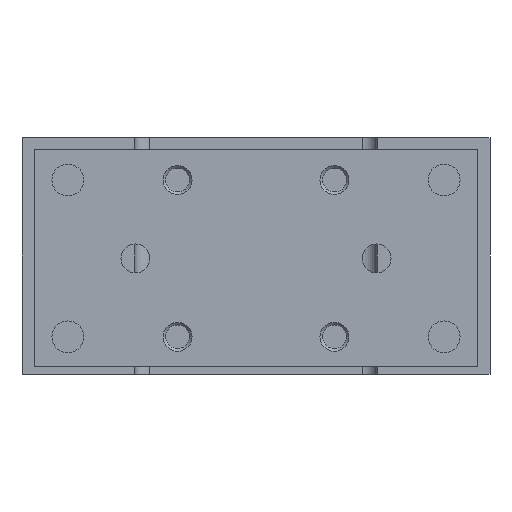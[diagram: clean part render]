
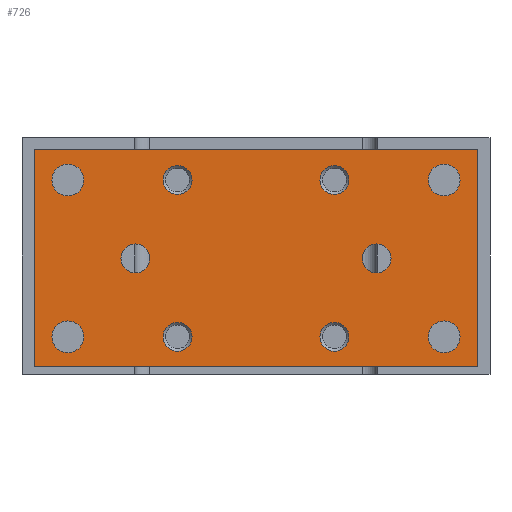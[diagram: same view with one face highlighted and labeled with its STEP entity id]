
A CAD part, left-side view. The second image highlights one B-rep face of the part: STEP entity #726.
In plain terms, the highlighted planar face has unit normal (-1, 0, 0).
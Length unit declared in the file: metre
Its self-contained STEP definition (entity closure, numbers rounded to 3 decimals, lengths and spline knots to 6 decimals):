
#726 = ADVANCED_FACE( '', ( #1687, #1688, #1689, #1690, #1691, #1692, #1693, #1694, #1695, #1696, #1697 ), #1698, .T. );
#1687 = FACE_BOUND( '', #2769, .T. );
#1688 = FACE_BOUND( '', #2770, .T. );
#1689 = FACE_BOUND( '', #2771, .T. );
#1690 = FACE_BOUND( '', #2772, .T. );
#1691 = FACE_BOUND( '', #2773, .T. );
#1692 = FACE_BOUND( '', #2774, .T. );
#1693 = FACE_BOUND( '', #2775, .T. );
#1694 = FACE_BOUND( '', #2776, .T. );
#1695 = FACE_BOUND( '', #2777, .T. );
#1696 = FACE_BOUND( '', #2778, .T. );
#1697 = FACE_OUTER_BOUND( '', #2779, .T. );
#1698 = PLANE( '', #2780 );
#2769 = EDGE_LOOP( '', ( #4508 ) );
#2770 = EDGE_LOOP( '', ( #4509 ) );
#2771 = EDGE_LOOP( '', ( #4510 ) );
#2772 = EDGE_LOOP( '', ( #4511 ) );
#2773 = EDGE_LOOP( '', ( #4512 ) );
#2774 = EDGE_LOOP( '', ( #4513 ) );
#2775 = EDGE_LOOP( '', ( #4514 ) );
#2776 = EDGE_LOOP( '', ( #4515 ) );
#2777 = EDGE_LOOP( '', ( #4516 ) );
#2778 = EDGE_LOOP( '', ( #4517 ) );
#2779 = EDGE_LOOP( '', ( #4518, #4519, #4520, #4521 ) );
#2780 = AXIS2_PLACEMENT_3D( '', #4522, #4523, #4524 );
#4508 = ORIENTED_EDGE( '', *, *, #5579, .T. );
#4509 = ORIENTED_EDGE( '', *, *, #5158, .F. );
#4510 = ORIENTED_EDGE( '', *, *, #5339, .F. );
#4511 = ORIENTED_EDGE( '', *, *, #5088, .T. );
#4512 = ORIENTED_EDGE( '', *, *, #5590, .F. );
#4513 = ORIENTED_EDGE( '', *, *, #5248, .T. );
#4514 = ORIENTED_EDGE( '', *, *, #5187, .T. );
#4515 = ORIENTED_EDGE( '', *, *, #5440, .F. );
#4516 = ORIENTED_EDGE( '', *, *, #5091, .F. );
#4517 = ORIENTED_EDGE( '', *, *, #5334, .T. );
#4518 = ORIENTED_EDGE( '', *, *, #5509, .T. );
#4519 = ORIENTED_EDGE( '', *, *, #5391, .T. );
#4520 = ORIENTED_EDGE( '', *, *, #5491, .T. );
#4521 = ORIENTED_EDGE( '', *, *, #5591, .T. );
#4522 = CARTESIAN_POINT( '', ( -0.0785, 0.046, -0.0475 ) );
#4523 = DIRECTION( '', ( -1., 0., 0. ) );
#4524 = DIRECTION( '', ( 0., 0., -1. ) );
#5088 = EDGE_CURVE( '', #5870, #5870, #5871, .T. );
#5091 = EDGE_CURVE( '', #5875, #5875, #5876, .T. );
#5158 = EDGE_CURVE( '', #5982, #5982, #5983, .T. );
#5187 = EDGE_CURVE( '', #6030, #6030, #6031, .T. );
#5248 = EDGE_CURVE( '', #6127, #6127, #6128, .T. );
#5334 = EDGE_CURVE( '', #6262, #6262, #6263, .T. );
#5339 = EDGE_CURVE( '', #6270, #6270, #6271, .T. );
#5391 = EDGE_CURVE( '', #6344, #6342, #6345, .T. );
#5440 = EDGE_CURVE( '', #6416, #6416, #6417, .T. );
#5491 = EDGE_CURVE( '', #6342, #6486, #6488, .T. );
#5509 = EDGE_CURVE( '', #6512, #6344, #6513, .T. );
#5579 = EDGE_CURVE( '', #6603, #6603, #6604, .T. );
#5590 = EDGE_CURVE( '', #6618, #6618, #6619, .T. );
#5591 = EDGE_CURVE( '', #6486, #6512, #6620, .T. );
#5870 = VERTEX_POINT( '', #7011 );
#5871 = CIRCLE( '', #7012, 0.003 );
#5875 = VERTEX_POINT( '', #7016 );
#5876 = CIRCLE( '', #7017, 0.0033 );
#5982 = VERTEX_POINT( '', #7134 );
#5983 = CIRCLE( '', #7135, 0.003 );
#6030 = VERTEX_POINT( '', #7220 );
#6031 = CIRCLE( '', #7221, 0.0033 );
#6127 = VERTEX_POINT( '', #7366 );
#6128 = CIRCLE( '', #7367, 0.003 );
#6262 = VERTEX_POINT( '', #7559 );
#6263 = CIRCLE( '', #7560, 0.0033 );
#6270 = VERTEX_POINT( '', #7567 );
#6271 = CIRCLE( '', #7568, 0.003 );
#6342 = VERTEX_POINT( '', #7653 );
#6344 = VERTEX_POINT( '', #7656 );
#6345 = LINE( '', #7657, #7658 );
#6416 = VERTEX_POINT( '', #7776 );
#6417 = CIRCLE( '', #7777, 0.0033 );
#6486 = VERTEX_POINT( '', #7861 );
#6488 = LINE( '', #7864, #7865 );
#6512 = VERTEX_POINT( '', #7893 );
#6513 = LINE( '', #7894, #7895 );
#6603 = VERTEX_POINT( '', #7999 );
#6604 = CIRCLE( '', #8000, 0.003 );
#6618 = VERTEX_POINT( '', #8016 );
#6619 = CIRCLE( '', #8017, 0.003 );
#6620 = LINE( '', #8018, #8019 );
#7011 = CARTESIAN_POINT( '', ( -0.0785, -0.01925, -0.00875 ) );
#7012 = AXIS2_PLACEMENT_3D( '', #8280, #8281, #8282 );
#7016 = CARTESIAN_POINT( '', ( -0.0785, 0.0357, -0.04125 ) );
#7017 = AXIS2_PLACEMENT_3D( '', #8286, #8287, #8288 );
#7134 = CARTESIAN_POINT( '', ( -0.0785, -0.01925, -0.04125 ) );
#7135 = AXIS2_PLACEMENT_3D( '', #8396, #8397, #8398 );
#7220 = CARTESIAN_POINT( '', ( -0.0785, 0.0357, -0.00875 ) );
#7221 = AXIS2_PLACEMENT_3D( '', #8443, #8444, #8445 );
#7366 = CARTESIAN_POINT( '', ( -0.0785, -0.028, -0.025 ) );
#7367 = AXIS2_PLACEMENT_3D( '', #8534, #8535, #8536 );
#7559 = CARTESIAN_POINT( '', ( -0.0785, -0.0357, -0.04125 ) );
#7560 = AXIS2_PLACEMENT_3D( '', #8655, #8656, #8657 );
#7567 = CARTESIAN_POINT( '', ( -0.0785, 0.01925, -0.00875 ) );
#7568 = AXIS2_PLACEMENT_3D( '', #8664, #8665, #8666 );
#7653 = CARTESIAN_POINT( '', ( -0.0785, -0.046, -0.0475 ) );
#7656 = CARTESIAN_POINT( '', ( -0.0785, 0.046, -0.0475 ) );
#7657 = CARTESIAN_POINT( '', ( -0.0785, 0.046, -0.0475 ) );
#7658 = VECTOR( '', #8730, 1. );
#7776 = CARTESIAN_POINT( '', ( -0.0785, -0.0357, -0.00875 ) );
#7777 = AXIS2_PLACEMENT_3D( '', #8799, #8800, #8801 );
#7861 = CARTESIAN_POINT( '', ( -0.0785, -0.046, -0.0025 ) );
#7864 = CARTESIAN_POINT( '', ( -0.0785, -0.046, -0.0475 ) );
#7865 = VECTOR( '', #8857, 1. );
#7893 = CARTESIAN_POINT( '', ( -0.0785, 0.046, -0.0025 ) );
#7894 = CARTESIAN_POINT( '', ( -0.0785, 0.046, -0.0025 ) );
#7895 = VECTOR( '', #8874, 1. );
#7999 = CARTESIAN_POINT( '', ( -0.0785, 0.01925, -0.04125 ) );
#8000 = AXIS2_PLACEMENT_3D( '', #8946, #8947, #8948 );
#8016 = CARTESIAN_POINT( '', ( -0.0785, 0.028, -0.025 ) );
#8017 = AXIS2_PLACEMENT_3D( '', #8957, #8958, #8959 );
#8018 = CARTESIAN_POINT( '', ( -0.0785, -0.046, -0.0025 ) );
#8019 = VECTOR( '', #8960, 1. );
#8280 = CARTESIAN_POINT( '', ( -0.0785, -0.01625, -0.00875 ) );
#8281 = DIRECTION( '', ( 1., 0., 0. ) );
#8282 = DIRECTION( '', ( 0., -1., 0. ) );
#8286 = CARTESIAN_POINT( '', ( -0.0785, 0.039, -0.04125 ) );
#8287 = DIRECTION( '', ( -1., 0., 0. ) );
#8288 = DIRECTION( '', ( 0., -1., 0. ) );
#8396 = CARTESIAN_POINT( '', ( -0.0785, -0.01625, -0.04125 ) );
#8397 = DIRECTION( '', ( -1., 0., 0. ) );
#8398 = DIRECTION( '', ( 0., -1., 0. ) );
#8443 = CARTESIAN_POINT( '', ( -0.0785, 0.039, -0.00875 ) );
#8444 = DIRECTION( '', ( 1., 0., 0. ) );
#8445 = DIRECTION( '', ( 0., -1., 0. ) );
#8534 = CARTESIAN_POINT( '', ( -0.0785, -0.025, -0.025 ) );
#8535 = DIRECTION( '', ( 1., 0., 0. ) );
#8536 = DIRECTION( '', ( 0., -1., 0. ) );
#8655 = CARTESIAN_POINT( '', ( -0.0785, -0.039, -0.04125 ) );
#8656 = DIRECTION( '', ( 1., 0., 0. ) );
#8657 = DIRECTION( '', ( 0., 1., 0. ) );
#8664 = CARTESIAN_POINT( '', ( -0.0785, 0.01625, -0.00875 ) );
#8665 = DIRECTION( '', ( -1., 0., 0. ) );
#8666 = DIRECTION( '', ( 0., 1., 0. ) );
#8730 = DIRECTION( '', ( 0., -1., 0. ) );
#8799 = CARTESIAN_POINT( '', ( -0.0785, -0.039, -0.00875 ) );
#8800 = DIRECTION( '', ( -1., 0., 0. ) );
#8801 = DIRECTION( '', ( 0., 1., 0. ) );
#8857 = DIRECTION( '', ( 0., 0., 1. ) );
#8874 = DIRECTION( '', ( 0., 0., -1. ) );
#8946 = CARTESIAN_POINT( '', ( -0.0785, 0.01625, -0.04125 ) );
#8947 = DIRECTION( '', ( 1., 0., 0. ) );
#8948 = DIRECTION( '', ( 0., 1., 0. ) );
#8957 = CARTESIAN_POINT( '', ( -0.0785, 0.025, -0.025 ) );
#8958 = DIRECTION( '', ( -1., 0., 0. ) );
#8959 = DIRECTION( '', ( 0., 1., 0. ) );
#8960 = DIRECTION( '', ( 0., 1., 0. ) );
